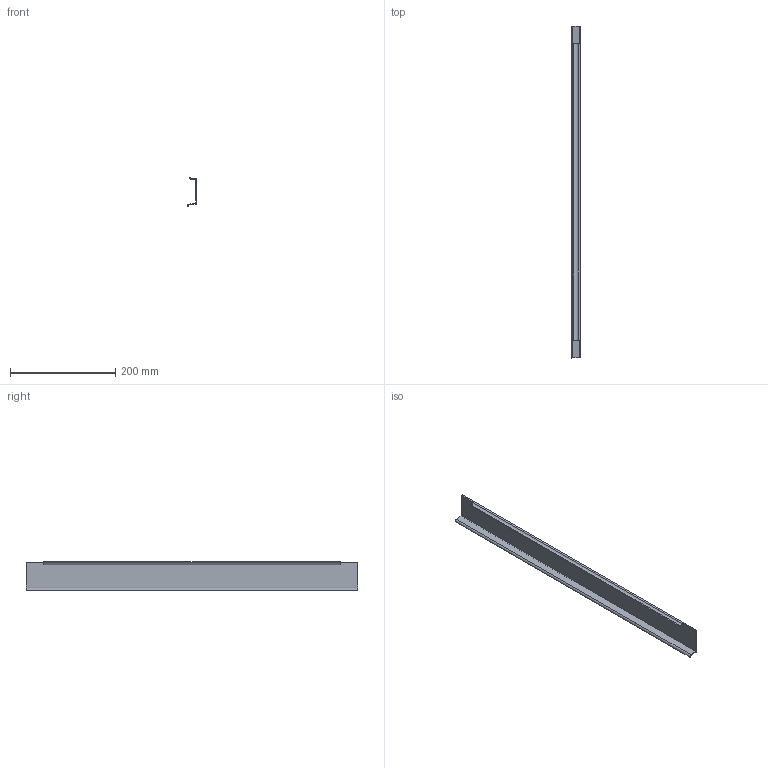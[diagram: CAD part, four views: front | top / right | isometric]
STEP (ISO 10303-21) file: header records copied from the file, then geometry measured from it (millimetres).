
FILE_DESCRIPTION (( 'STEP AP214' ), '1' );
FILE_NAME ('Sidecover_NL-650.step', '2010-09-21T06:52:15', ( 'grass' ), ( '' ), 'SwSTEP 2.0', 'SolidWorks 2010', '' );
FILE_SCHEMA (( 'AUTOMOTIVE_DESIGN' ));
Length unit declared in the file: millimetre
Products named in the file (1): Sidecover_NL-650
Bounding box: 18.14 x 629.5 x 54.9 mm (x, y, z)
Volume: 103842.2 mm3; surface area: 101454.9 mm2
Topology: 1 solids, 1 shells, 19 faces, 51 edges, 34 vertices
Faces by surface type: plane 14, cylinder 5
Entity records: 629 total; most frequent: CARTESIAN_POINT 105, ORIENTED_EDGE 102, DIRECTION 101, EDGE_CURVE 51, VECTOR 41, LINE 41, VERTEX_POINT 34, AXIS2_PLACEMENT_3D 30
